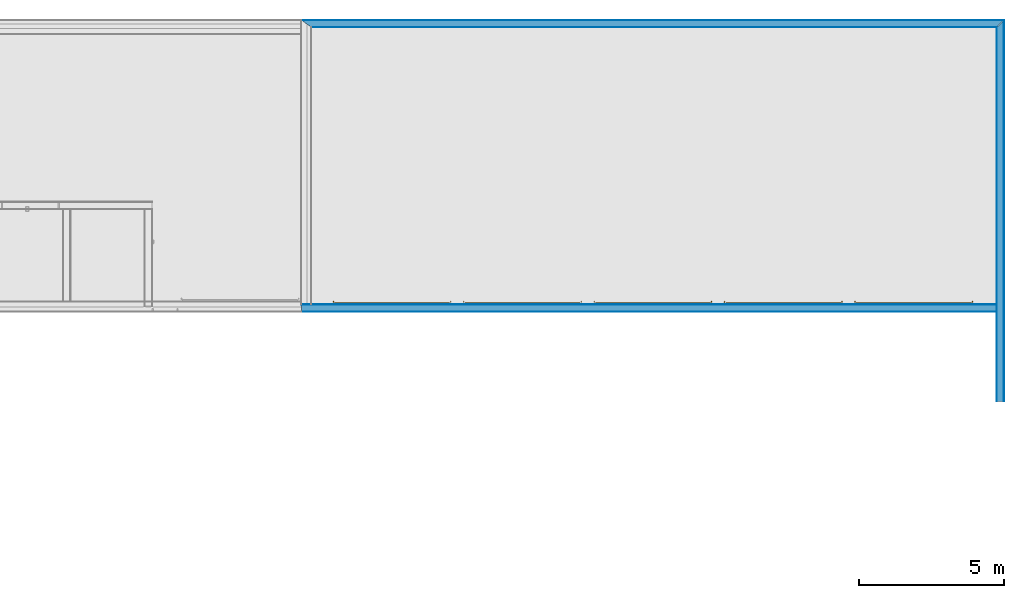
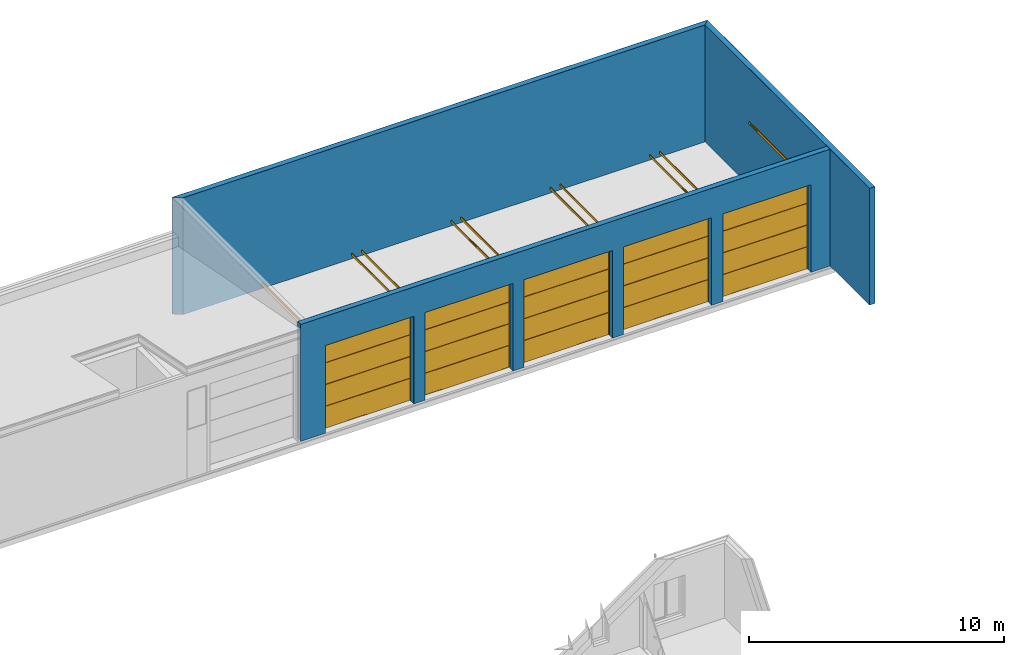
# One storey, part 26 of 62: 9 building element parts, 5 doors, 5 openings, 3 elements without a shape of their own.
"""IFC2X3 building model written with IfcOpenShell, lengths in millimetres."""

from ifc_helpers import new_model, entity, si_unit, converted_unit, derived_unit, money_unit, direction, frame, origin_with_axes, origin_2d_with_axis, place, context, subcontext, project, spatial, polyline, rectangle, outline, extrude, clip, bounded_halfspace, faceted_brep, source, transform, mapped, material, type_object, element, fill, aggregate, save


model = new_model("IFC2X3")

# Units and contexts
model_context = context("Model", 3, precision=0.01, world=origin_with_axes(), true_north=direction((0.0, 1.0)))
body_context = subcontext(model_context, "Body", "Model", "MODEL_VIEW")
ifc_project = project(units=[si_unit("LENGTHUNIT", "METRE", prefix="MILLI"), si_unit("AREAUNIT", "SQUARE_METRE"), si_unit("VOLUMEUNIT", "CUBIC_METRE"), converted_unit("PLANEANGLEUNIT", "DEGREE", entity("IfcPlaneAngleMeasure", 0.0174532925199), si_unit("PLANEANGLEUNIT", "RADIAN"), dimensions=[0, 0, 0, 0, 0, 0, 0]), si_unit("SOLIDANGLEUNIT", "STERADIAN"), money_unit("EUR"), converted_unit("TIMEUNIT", "Year", entity("IfcTimeMeasure", 31556926.0), si_unit("TIMEUNIT", "SECOND"), dimensions=[0, 0, 1, 0, 0, 0, 0]), si_unit("MASSUNIT", "GRAM", prefix="KILO"), si_unit("THERMODYNAMICTEMPERATUREUNIT", "DEGREE_CELSIUS"), si_unit("LUMINOUSINTENSITYUNIT", "LUMEN"), si_unit("ENERGYUNIT", "JOULE", prefix="MEGA"), derived_unit("THERMALCONDUCTANCEUNIT", [(si_unit("POWERUNIT", "WATT"), 1), (si_unit("LENGTHUNIT", "METRE"), -1), (si_unit("THERMODYNAMICTEMPERATUREUNIT", "KELVIN"), -1)]), derived_unit("SPECIFICHEATCAPACITYUNIT", [(si_unit("ENERGYUNIT", "JOULE"), 1), (si_unit("MASSUNIT", "GRAM", prefix="KILO"), -1), (si_unit("THERMODYNAMICTEMPERATUREUNIT", "KELVIN"), -1)]), derived_unit("MASSDENSITYUNIT", [(si_unit("MASSUNIT", "GRAM", prefix="KILO"), 1), (si_unit("VOLUMEUNIT", "CUBIC_METRE"), -1)])], contexts=[model_context])

# Site, building, storey
site_placement = place(None, origin_with_axes())
site = spatial("IfcSite", under=ifc_project, at=site_placement, Name="KIRDE 14, ELVA", CompositionType="ELEMENT")
building_placement = place(site_placement, origin_with_axes())
building = spatial("IfcBuilding", under=site, at=building_placement, Name="PPA ja Päästeameti ühishoone", CompositionType="ELEMENT")
storey_placement = place(building_placement, origin_with_axes())
storey = spatial("IfcBuildingStorey", under=building, at=storey_placement, Name="Esimene korrus", CompositionType="ELEMENT", Elevation=0.0)

# Door
door_style = type_object("IfcDoorStyle", Name="Overhead Garage Door 24", ConstructionType="NOTDEFINED", OperationType="ROLLINGUP", ParameterTakesPrecedence=False, Sizeable=False)
shared_shape = source(origin_with_axes(), body_context, "Body", "Brep", [
    faceted_brep([(1990.0, 250.0, 4250.0), (-1990.0, 250.0, 4250.0), (-1990.0, 250.0, 4200.0), (1990.0, 250.0, 4200.0), (1990.0, 285.0, 4250.0), (-1990.0, 285.0, 4250.0), (-1990.0, 285.0, 4200.0), (1990.0, 285.0, 4200.0)], [[[0, 1, 2, 3]], [[4, 5, 1, 0]], [[1, 5, 6, 2]], [[3, 2, 6, 7]], [[0, 3, 7, 4]], [[7, 6, 5, 4]]]),
    faceted_brep([(-2040.0, 350.0, 0.0), (-2040.0, 350.0, 4250.0), (-2038.4125, 350.0, 4250.0), (-2038.4125, 350.0, 0.0), (-2040.0, 250.0, 0.0), (-2040.0, 250.0, 4250.0), (-1990.0, 250.0, 4250.0), (-1990.0, 285.0, 4250.0), (-1991.5875, 285.0, 4250.0), (-1991.5875, 251.5875, 4250.0), (-2038.4125, 251.5875, 4250.0), (-2038.4125, 251.5875, 0.0), (-1991.5875, 251.5875, 0.0), (-1991.5875, 285.0, 0.0), (-1990.0, 285.0, 0.0), (-1990.0, 250.0, 0.0)], [[[0, 1, 2, 3]], [[4, 5, 1, 0]], [[1, 5, 6, 7, 8, 9, 10, 2]], [[3, 2, 10, 11]], [[0, 3, 11, 12, 13, 14, 15, 4]], [[15, 6, 5, 4]], [[14, 7, 6, 15]], [[13, 8, 7, 14]], [[12, 9, 8, 13]], [[11, 10, 9, 12]]]),
    faceted_brep([(2038.4125, 370.0, 0.0), (2038.4125, 370.0, 3826.85768941), (2038.4125, 371.807210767, 3861.34132507), (2038.4125, 376.716802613, 3892.33926803), (2038.4125, 384.839666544, 3922.65420892), (2038.4125, 396.086806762, 3951.95401091), (2038.4125, 410.334997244, 3979.91765924), (2038.4125, 427.428131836, 4006.23877832), (2038.4125, 447.178934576, 4030.62898846), (2038.4125, 469.371011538, 4052.82106542), (2038.4125, 493.761221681, 4072.57186816), (2038.4125, 520.08234076, 4089.66500276), (2038.4125, 548.045989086, 4103.91319324), (2038.4125, 577.345791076, 4115.16033346), (2038.4125, 607.660731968, 4123.28319739), (2038.4125, 638.658674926, 4128.19278923), (2038.4125, 673.142310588, 4130.0), (2038.4125, 4910.0, 4130.0), (2038.4125, 4910.0, 4187.0), (2038.4125, 671.649713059, 4187.0), (2038.4125, 632.692375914, 4184.95833247), (2038.4125, 595.793501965, 4179.11412497), (2038.4125, 559.707649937, 4169.44495007), (2038.4125, 524.830183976, 4156.05674525), (2038.4125, 491.543228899, 4139.0961945), (2038.4125, 460.21148355, 4118.74912116), (2038.4125, 431.178225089, 4095.23845203), (2038.4125, 404.76154797, 4068.82177491), (2038.4125, 381.250878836, 4039.78851645), (2038.4125, 360.903805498, 4008.4567711), (2038.4125, 343.94325475, 3975.16981602), (2038.4125, 330.555049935, 3940.29235006), (2038.4125, 320.885875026, 3904.20649804), (2038.4125, 315.041667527, 3867.30762409), (2038.4125, 313.0, 3828.35028694), (2038.4125, 313.0, 0.0), (2011.4125, 370.0, 0.0), (2011.4125, 370.0, 3826.85768941), (2011.4125, 371.807210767, 3861.34132507), (2011.4125, 376.716802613, 3892.33926803), (2011.4125, 384.839666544, 3922.65420892), (2011.4125, 396.086806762, 3951.95401091), (2011.4125, 410.334997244, 3979.91765924), (2011.4125, 427.428131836, 4006.23877832), (2011.4125, 447.178934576, 4030.62898846), (2011.4125, 469.371011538, 4052.82106542), (2011.4125, 493.761221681, 4072.57186816), (2011.4125, 520.08234076, 4089.66500276), (2011.4125, 548.045989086, 4103.91319324), (2011.4125, 577.345791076, 4115.16033346), (2011.4125, 607.660731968, 4123.28319739), (2011.4125, 638.658674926, 4128.19278923), (2011.4125, 673.142310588, 4130.0), (2011.4125, 4910.0, 4130.0), (2011.4125, 4910.0, 4187.0), (2011.4125, 671.649713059, 4187.0), (2011.4125, 632.692375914, 4184.95833247), (2011.4125, 595.793501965, 4179.11412497), (2011.4125, 559.707649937, 4169.44495007), (2011.4125, 524.830183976, 4156.05674525), (2011.4125, 491.543228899, 4139.0961945), (2011.4125, 460.21148355, 4118.74912116), (2011.4125, 431.178225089, 4095.23845203), (2011.4125, 404.76154797, 4068.82177491), (2011.4125, 381.250878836, 4039.78851645), (2011.4125, 360.903805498, 4008.4567711), (2011.4125, 343.94325475, 3975.16981602), (2011.4125, 330.555049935, 3940.29235006), (2011.4125, 320.885875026, 3904.20649804), (2011.4125, 315.041667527, 3867.30762409), (2011.4125, 313.0, 3828.35028694), (2011.4125, 313.0, 0.0)], [[[0, 1, 2, 3, 4, 5, 6, 7, 8, 9, 10, 11, 12, 13, 14, 15, 16, 17, 18, 19, 20, 21, 22, 23, 24, 25, 26, 27, 28, 29, 30, 31, 32, 33, 34, 35]], [[36, 37, 1, 0]], [[37, 38, 2, 1]], [[38, 39, 3, 2]], [[39, 40, 4, 3]], [[40, 41, 5, 4]], [[41, 42, 6, 5]], [[42, 43, 7, 6]], [[43, 44, 8, 7]], [[44, 45, 9, 8]], [[45, 46, 10, 9]], [[46, 47, 11, 10]], [[47, 48, 12, 11]], [[48, 49, 13, 12]], [[49, 50, 14, 13]], [[50, 51, 15, 14]], [[51, 52, 16, 15]], [[52, 53, 17, 16]], [[17, 53, 54, 18]], [[19, 18, 54, 55]], [[20, 19, 55, 56]], [[21, 20, 56, 57]], [[22, 21, 57, 58]], [[23, 22, 58, 59]], [[24, 23, 59, 60]], [[25, 24, 60, 61]], [[26, 25, 61, 62]], [[27, 26, 62, 63]], [[28, 27, 63, 64]], [[29, 28, 64, 65]], [[30, 29, 65, 66]], [[31, 30, 66, 67]], [[32, 31, 67, 68]], [[33, 32, 68, 69]], [[34, 33, 69, 70]], [[35, 34, 70, 71]], [[0, 35, 71, 36]], [[71, 70, 69, 68, 67, 66, 65, 64, 63, 62, 61, 60, 59, 58, 57, 56, 55, 54, 53, 52, 51, 50, 49, 48, 47, 46, 45, 44, 43, 42, 41, 40, 39, 38, 37, 36]]]),
    faceted_brep([(-2040.0, 4910.0, 4244.0), (-2040.0, 313.0, 4244.0), (-2013.0, 313.0, 4244.0), (-2013.0, 4910.0, 4244.0), (-2040.0, 4910.0, 4187.0), (-2040.0, 313.0, 4187.0), (-2013.0, 313.0, 4187.0), (-2013.0, 4910.0, 4187.0)], [[[0, 1, 2, 3]], [[4, 5, 1, 0]], [[1, 5, 6, 2]], [[3, 2, 6, 7]], [[0, 3, 7, 4]], [[7, 6, 5, 4]]]),
    faceted_brep([(2040.0, 350.0, 0.0), (2038.4125, 350.0, 0.0), (2038.4125, 350.0, 4250.0), (2040.0, 350.0, 4250.0), (2040.0, 250.0, 0.0), (1990.0, 250.0, 0.0), (1990.0, 285.0, 0.0), (1991.5875, 285.0, 0.0), (1991.5875, 251.5875, 0.0), (2038.4125, 251.5875, 0.0), (2038.4125, 251.5875, 4250.0), (1991.5875, 251.5875, 4250.0), (1991.5875, 285.0, 4250.0), (1990.0, 285.0, 4250.0), (1990.0, 250.0, 4250.0), (2040.0, 250.0, 4250.0)], [[[0, 1, 2, 3]], [[0, 4, 5, 6, 7, 8, 9, 1]], [[1, 9, 10, 2]], [[3, 2, 10, 11, 12, 13, 14, 15]], [[4, 0, 3, 15]], [[5, 4, 15, 14]], [[6, 5, 14, 13]], [[7, 6, 13, 12]], [[8, 7, 12, 11]], [[9, 8, 11, 10]]]),
    faceted_brep([(-2038.4125, 370.0, 0.0), (-2038.4125, 313.0, 0.0), (-2038.4125, 313.0, 3828.35028694), (-2038.4125, 315.041667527, 3867.30762409), (-2038.4125, 320.885875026, 3904.20649804), (-2038.4125, 330.555049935, 3940.29235006), (-2038.4125, 343.94325475, 3975.16981602), (-2038.4125, 360.903805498, 4008.4567711), (-2038.4125, 381.250878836, 4039.78851645), (-2038.4125, 404.76154797, 4068.82177491), (-2038.4125, 431.178225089, 4095.23845203), (-2038.4125, 460.21148355, 4118.74912116), (-2038.4125, 491.543228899, 4139.0961945), (-2038.4125, 524.830183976, 4156.05674525), (-2038.4125, 559.707649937, 4169.44495007), (-2038.4125, 595.793501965, 4179.11412497), (-2038.4125, 632.692375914, 4184.95833247), (-2038.4125, 671.649713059, 4187.0), (-2038.4125, 4910.0, 4187.0), (-2038.4125, 4910.0, 4130.0), (-2038.4125, 673.142310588, 4130.0), (-2038.4125, 638.658674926, 4128.19278923), (-2038.4125, 607.660731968, 4123.28319739), (-2038.4125, 577.345791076, 4115.16033346), (-2038.4125, 548.045989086, 4103.91319324), (-2038.4125, 520.08234076, 4089.66500276), (-2038.4125, 493.761221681, 4072.57186816), (-2038.4125, 469.371011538, 4052.82106542), (-2038.4125, 447.178934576, 4030.62898846), (-2038.4125, 427.428131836, 4006.23877832), (-2038.4125, 410.334997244, 3979.91765924), (-2038.4125, 396.086806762, 3951.95401091), (-2038.4125, 384.839666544, 3922.65420892), (-2038.4125, 376.716802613, 3892.33926803), (-2038.4125, 371.807210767, 3861.34132507), (-2038.4125, 370.0, 3826.85768941), (-2011.4125, 370.0, 0.0), (-2011.4125, 313.0, 0.0), (-2011.4125, 313.0, 3828.35028694), (-2011.4125, 315.041667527, 3867.30762409), (-2011.4125, 320.885875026, 3904.20649804), (-2011.4125, 330.555049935, 3940.29235006), (-2011.4125, 343.94325475, 3975.16981602), (-2011.4125, 360.903805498, 4008.4567711), (-2011.4125, 381.250878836, 4039.78851645), (-2011.4125, 404.76154797, 4068.82177491), (-2011.4125, 431.178225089, 4095.23845203), (-2011.4125, 460.21148355, 4118.74912116), (-2011.4125, 491.543228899, 4139.0961945), (-2011.4125, 524.830183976, 4156.05674525), (-2011.4125, 559.707649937, 4169.44495007), (-2011.4125, 595.793501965, 4179.11412497), (-2011.4125, 632.692375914, 4184.95833247), (-2011.4125, 671.649713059, 4187.0), (-2011.4125, 4910.0, 4187.0), (-2011.4125, 4910.0, 4130.0), (-2011.4125, 673.142310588, 4130.0), (-2011.4125, 638.658674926, 4128.19278923), (-2011.4125, 607.660731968, 4123.28319739), (-2011.4125, 577.345791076, 4115.16033346), (-2011.4125, 548.045989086, 4103.91319324), (-2011.4125, 520.08234076, 4089.66500276), (-2011.4125, 493.761221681, 4072.57186816), (-2011.4125, 469.371011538, 4052.82106542), (-2011.4125, 447.178934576, 4030.62898846), (-2011.4125, 427.428131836, 4006.23877832), (-2011.4125, 410.334997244, 3979.91765924), (-2011.4125, 396.086806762, 3951.95401091), (-2011.4125, 384.839666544, 3922.65420892), (-2011.4125, 376.716802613, 3892.33926803), (-2011.4125, 371.807210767, 3861.34132507), (-2011.4125, 370.0, 3826.85768941)], [[[0, 1, 2, 3, 4, 5, 6, 7, 8, 9, 10, 11, 12, 13, 14, 15, 16, 17, 18, 19, 20, 21, 22, 23, 24, 25, 26, 27, 28, 29, 30, 31, 32, 33, 34, 35]], [[0, 36, 37, 1]], [[1, 37, 38, 2]], [[2, 38, 39, 3]], [[3, 39, 40, 4]], [[4, 40, 41, 5]], [[5, 41, 42, 6]], [[6, 42, 43, 7]], [[7, 43, 44, 8]], [[8, 44, 45, 9]], [[9, 45, 46, 10]], [[10, 46, 47, 11]], [[11, 47, 48, 12]], [[12, 48, 49, 13]], [[13, 49, 50, 14]], [[14, 50, 51, 15]], [[15, 51, 52, 16]], [[16, 52, 53, 17]], [[17, 53, 54, 18]], [[19, 18, 54, 55]], [[56, 20, 19, 55]], [[57, 21, 20, 56]], [[58, 22, 21, 57]], [[59, 23, 22, 58]], [[60, 24, 23, 59]], [[61, 25, 24, 60]], [[62, 26, 25, 61]], [[63, 27, 26, 62]], [[64, 28, 27, 63]], [[65, 29, 28, 64]], [[66, 30, 29, 65]], [[67, 31, 30, 66]], [[68, 32, 31, 67]], [[69, 33, 32, 68]], [[70, 34, 33, 69]], [[71, 35, 34, 70]], [[36, 0, 35, 71]], [[37, 36, 71, 70, 69, 68, 67, 66, 65, 64, 63, 62, 61, 60, 59, 58, 57, 56, 55, 54, 53, 52, 51, 50, 49, 48, 47, 46, 45, 44, 43, 42, 41, 40, 39, 38]]]),
    faceted_brep([(2040.0, 4910.0, 4244.0), (2013.0, 4910.0, 4244.0), (2013.0, 313.0, 4244.0), (2040.0, 313.0, 4244.0), (2040.0, 4910.0, 4187.0), (2013.0, 4910.0, 4187.0), (2013.0, 313.0, 4187.0), (2040.0, 313.0, 4187.0)], [[[0, 1, 2, 3]], [[0, 4, 5, 1]], [[1, 5, 6, 2]], [[3, 2, 6, 7]], [[4, 0, 3, 7]], [[5, 4, 7, 6]]]),
    faceted_brep([(-1985.0, 325.0, 0.0), (1985.0, 325.0, 0.0), (1985.0, 295.0, 0.0), (-1985.0, 295.0, 0.0), (-1985.0, 325.0, 22.5), (1985.0, 325.0, 22.5), (1985.0, 295.0, 22.5), (-1985.0, 295.0, 22.5)], [[[0, 1, 2, 3]], [[0, 4, 5, 1]], [[1, 5, 6, 2]], [[3, 2, 6, 7]], [[4, 0, 3, 7]], [[5, 4, 7, 6]]]),
    faceted_brep([(-1985.0, 325.0, 22.5), (-1985.0, 325.0, 1063.625), (1985.0, 325.0, 1063.625), (1985.0, 325.0, 22.5), (-1985.0, 295.0, 22.5), (-1985.0, 285.0, 32.5), (-1985.0, 285.0, 1053.625), (-1985.0, 295.0, 1063.625), (1985.0, 295.0, 1063.625), (1985.0, 285.0, 1053.625), (1985.0, 285.0, 32.5), (1985.0, 295.0, 22.5)], [[[0, 1, 2, 3]], [[0, 4, 5, 6, 7, 1]], [[1, 7, 8, 2]], [[3, 2, 8, 9, 10, 11]], [[4, 0, 3, 11]], [[5, 4, 11, 10]], [[6, 5, 10, 9]], [[7, 6, 9, 8]]]),
    faceted_brep([(-1985.0, 325.0, 1063.625), (-1985.0, 325.0, 2104.75), (1985.0, 325.0, 2104.75), (1985.0, 325.0, 1063.625), (-1985.0, 295.0, 1063.625), (-1985.0, 285.0, 1073.625), (-1985.0, 285.0, 2094.75), (-1985.0, 295.0, 2104.75), (1985.0, 295.0, 2104.75), (1985.0, 285.0, 2094.75), (1985.0, 285.0, 1073.625), (1985.0, 295.0, 1063.625)], [[[0, 1, 2, 3]], [[0, 4, 5, 6, 7, 1]], [[1, 7, 8, 2]], [[3, 2, 8, 9, 10, 11]], [[4, 0, 3, 11]], [[5, 4, 11, 10]], [[6, 5, 10, 9]], [[7, 6, 9, 8]]]),
    faceted_brep([(-1985.0, 325.0, 2104.75), (-1985.0, 325.0, 3145.875), (1985.0, 325.0, 3145.875), (1985.0, 325.0, 2104.75), (-1985.0, 295.0, 2104.75), (-1985.0, 285.0, 2114.75), (-1985.0, 285.0, 3135.875), (-1985.0, 295.0, 3145.875), (1985.0, 295.0, 3145.875), (1985.0, 285.0, 3135.875), (1985.0, 285.0, 2114.75), (1985.0, 295.0, 2104.75)], [[[0, 1, 2, 3]], [[0, 4, 5, 6, 7, 1]], [[1, 7, 8, 2]], [[3, 2, 8, 9, 10, 11]], [[4, 0, 3, 11]], [[5, 4, 11, 10]], [[6, 5, 10, 9]], [[7, 6, 9, 8]]]),
    faceted_brep([(-1985.0, 325.0, 3145.875), (-1985.0, 325.0, 4187.0), (1985.0, 325.0, 4187.0), (1985.0, 325.0, 3145.875), (-1985.0, 295.0, 3145.875), (-1985.0, 285.0, 3155.875), (-1985.0, 285.0, 4177.0), (-1985.0, 295.0, 4187.0), (1985.0, 295.0, 4187.0), (1985.0, 285.0, 4177.0), (1985.0, 285.0, 3155.875), (1985.0, 295.0, 3145.875)], [[[0, 1, 2, 3]], [[0, 4, 5, 6, 7, 1]], [[1, 7, 8, 2]], [[3, 2, 8, 9, 10, 11]], [[4, 0, 3, 11]], [[5, 4, 11, 10]], [[6, 5, 10, 9]], [[7, 6, 9, 8]]]),
])
wall_2_placement = place(storey_placement, frame((31677.6217772, 39784.5478473, 0.0), z_axis=(0.0, 0.0, 1.0), x_axis=(1.0, 0.0, 0.0)))
opening_1_placement = place(wall_2_placement, frame((3128.09675777, 0.0, 0.0), z_axis=(0.0, 0.0, 1.0), x_axis=(1.0, 0.0, 0.0)))
door_1_placement = place(opening_1_placement, frame((-2000.0, 0.0, 0.0), z_axis=(0.0, 0.0, 1.0), x_axis=(1.0, 0.0, 0.0)))
door_1 = element("IfcDoor", 1, at=door_1_placement, inside=storey, type_object=door_style, Name="GUA-02", ObjectType="DOOR", OverallHeight=4200.0, OverallWidth=4000.0, context=body_context, shape_type="MappedRepresentation", body=[
    mapped(shared_shape, transform((2000.0, -250.0, 0.0))),
])

opening_2_placement = place(wall_2_placement, frame((12128.0967578, 0.0, 0.0), z_axis=(0.0, 0.0, 1.0), x_axis=(1.0, 0.0, 0.0)))
door_2_placement = place(opening_2_placement, frame((-2000.0, 0.0, 0.0), z_axis=(0.0, 0.0, 1.0), x_axis=(1.0, 0.0, 0.0)))
door_2 = element("IfcDoor", 2, at=door_2_placement, inside=storey, type_object=door_style, Name="GUA-02", ObjectType="DOOR", OverallHeight=4200.0, OverallWidth=4000.0, context=body_context, shape_type="MappedRepresentation", body=[
    mapped(shared_shape, transform((2000.0, -250.0, 0.0))),
])

opening_3_placement = place(wall_2_placement, frame((7628.09675777, 0.0, 0.0), z_axis=(0.0, 0.0, 1.0), x_axis=(1.0, 0.0, 0.0)))
door_3_placement = place(opening_3_placement, frame((-2000.0, 0.0, 0.0), z_axis=(0.0, 0.0, 1.0), x_axis=(1.0, 0.0, 0.0)))
door_3 = element("IfcDoor", 3, at=door_3_placement, inside=storey, type_object=door_style, Name="GUA-02", ObjectType="DOOR", OverallHeight=4200.0, OverallWidth=4000.0, context=body_context, shape_type="MappedRepresentation", body=[
    mapped(shared_shape, transform((2000.0, -250.0, 0.0))),
])

opening_4_placement = place(wall_2_placement, frame((16628.0967578, 0.0, 0.0), z_axis=(0.0, 0.0, 1.0), x_axis=(1.0, 0.0, 0.0)))
door_4_placement = place(opening_4_placement, frame((-2000.0, 0.0, 0.0), z_axis=(0.0, 0.0, 1.0), x_axis=(1.0, 0.0, 0.0)))
door_4 = element("IfcDoor", 4, at=door_4_placement, inside=storey, type_object=door_style, Name="GUA-02", ObjectType="DOOR", OverallHeight=4200.0, OverallWidth=4000.0, context=body_context, shape_type="MappedRepresentation", body=[
    mapped(shared_shape, transform((2000.0, -250.0, 0.0))),
])

opening_5_placement = place(wall_2_placement, frame((21128.0967578, 0.0, 0.0), z_axis=(0.0, 0.0, 1.0), x_axis=(1.0, 0.0, 0.0)))
door_5_placement = place(opening_5_placement, frame((-2000.0, 0.0, 0.0), z_axis=(0.0, 0.0, 1.0), x_axis=(1.0, 0.0, 0.0)))
door_5 = element("IfcDoor", 5, at=door_5_placement, inside=storey, type_object=door_style, Name="GUA-02", ObjectType="DOOR", OverallHeight=4200.0, OverallWidth=4000.0, context=body_context, shape_type="MappedRepresentation", body=[
    mapped(shared_shape, transform((2000.0, -250.0, 0.0))),
])

# Wall, building element parts
wall_type = type_object("IfcWallType", Name="A-VS02 250", PredefinedType="NOTDEFINED")
wall_1_placement = place(storey_placement, frame((55669.2615457, 49348.5478995, 0.0), z_axis=(0.0, 0.0, 1.0), x_axis=(0.0, -1.0, 0.0)))
wall_1 = element("IfcWall", 6, at=wall_1_placement, inside=storey, type_object=wall_type, Name="VS-06")
ifc_material_1 = material(Name="Krohv")
building_element_part_1_placement = place(wall_1_placement, origin_with_axes())
building_element_part_1 = element("IfcBuildingElementPart", 7, at=building_element_part_1_placement, material=ifc_material_1, Name="Krohv", context=body_context, shape_type="SweptSolid", body=[
    extrude(outline(polyline([(0.0, 0.0), (12905.0, 0.0), (12905.0, 5.0), (-5.00000000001, 5.0), (0.0, 0.0)])), origin_with_axes(), (0.0, 0.0, 1.0), 5600.0),
])
ifc_material_2 = material(Name="COLUMBIA KIVI (BETONEERITUD)")
building_element_part_2_placement = place(wall_1_placement, origin_with_axes())
building_element_part_2 = element("IfcBuildingElementPart", 8, at=building_element_part_2_placement, material=ifc_material_2, Name="COLUMBIA KIVI (BETONEERITUD)", context=body_context, shape_type="SweptSolid", body=[
    extrude(outline(polyline([(-5.00000000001, 5.0), (12905.0, 5.0), (12905.0, 245.0), (-245.0, 245.0), (-5.00000000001, 5.0)])), origin_with_axes(), (0.0, 0.0, 1.0), 5600.0),
])
building_element_part_3_placement = place(wall_1_placement, origin_with_axes())
building_element_part_3 = element("IfcBuildingElementPart", 9, at=building_element_part_3_placement, material=ifc_material_1, Name="Krohv", context=body_context, shape_type="SweptSolid", body=[
    extrude(outline(polyline([(-245.0, 245.0), (12905.0, 245.0), (12905.0, 250.0), (-250.0, 250.0), (-245.0, 245.0)])), origin_with_axes(), (0.0, 0.0, 1.0), 5600.0),
])
aggregate(wall_1, [building_element_part_1, building_element_part_2, building_element_part_3])

# Wall, opening
wall_2 = element("IfcWall", 10, at=wall_2_placement, inside=storey, type_object=wall_type, Name="VS-04")
opening_1 = element("IfcOpeningElement", 11, at=opening_1_placement, cuts=wall_2, Name="GUA-02", context=body_context, shape_type="SweptSolid", body=[
    extrude(rectangle(XDim=4000.0, YDim=4200.0, at=origin_2d_with_axis()), frame((0.0, 250.0, 2100.0), z_axis=(0.0, -1.0, 0.0), x_axis=(1.0, 0.0, 0.0)), (0.0, 0.0, 1.0), 750.0),
])

fill(opening_1, door_1)

# Opening
opening_2 = element("IfcOpeningElement", 12, at=opening_2_placement, cuts=wall_2, Name="GUA-02", context=body_context, shape_type="SweptSolid", body=[
    extrude(rectangle(XDim=4000.0, YDim=4200.0, at=origin_2d_with_axis()), frame((0.0, 250.0, 2100.0), z_axis=(0.0, -1.0, 0.0), x_axis=(1.0, 0.0, 0.0)), (0.0, 0.0, 1.0), 750.0),
])

fill(opening_2, door_2)

opening_3 = element("IfcOpeningElement", 13, at=opening_3_placement, cuts=wall_2, Name="GUA-02", context=body_context, shape_type="SweptSolid", body=[
    extrude(rectangle(XDim=4000.0, YDim=4200.0, at=origin_2d_with_axis()), frame((0.0, 250.0, 2100.0), z_axis=(0.0, -1.0, 0.0), x_axis=(1.0, 0.0, 0.0)), (0.0, 0.0, 1.0), 750.0),
])

fill(opening_3, door_3)

opening_4 = element("IfcOpeningElement", 14, at=opening_4_placement, cuts=wall_2, Name="GUA-02", context=body_context, shape_type="SweptSolid", body=[
    extrude(rectangle(XDim=4000.0, YDim=4200.0, at=origin_2d_with_axis()), frame((0.0, 250.0, 2100.0), z_axis=(0.0, -1.0, 0.0), x_axis=(1.0, 0.0, 0.0)), (0.0, 0.0, 1.0), 750.0),
])

fill(opening_4, door_4)

opening_5 = element("IfcOpeningElement", 15, at=opening_5_placement, cuts=wall_2, Name="GUA-02", context=body_context, shape_type="SweptSolid", body=[
    extrude(rectangle(XDim=4000.0, YDim=4200.0, at=origin_2d_with_axis()), frame((0.0, 250.0, 2100.0), z_axis=(0.0, -1.0, 0.0), x_axis=(1.0, 0.0, 0.0)), (0.0, 0.0, 1.0), 750.0),
])

fill(opening_5, door_5)

# Building element part
building_element_part_4_placement = place(wall_2_placement, origin_with_axes())
building_element_part_4 = element("IfcBuildingElementPart", 16, at=building_element_part_4_placement, material=ifc_material_1, Name="Krohv", context=body_context, shape_type="Clipping", body=[
    clip(clip(extrude(outline(polyline([(0.0, -5.0), (23991.6397685, -5.0), (23991.6397685, 0.0), (0.0, 0.0), (0.0, -5.0)])), origin_with_axes(), (0.0, 0.0, 1.0), 5600.0), bounded_halfspace(frame((-3.21189756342e-07, 914.07045428, 4710.9318918), z_axis=(0.0, -0.190479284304, -0.981691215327), x_axis=(0.0, 0.981691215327, -0.190479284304)), True, origin_with_axes(), polyline([(-17407.6586547, -260.0), (0.0, -260.0), (0.0, 10.0), (-17407.6586547, 10.0), (-17407.6586547, -260.0)]))), bounded_halfspace(frame((1.09234689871e-09, 914.07045459, 4710.9318934), z_axis=(0.0, -0.190479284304, -0.981691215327), x_axis=(0.0, 0.981691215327, -0.190479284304)), True, origin_with_axes(), polyline([(-14293.9667619, -260.0), (-1.03600236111e-07, -260.0), (-1.32274379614e-07, 10.0), (-14293.9667619, 10.0), (-14293.9667619, -260.0)]))),
])

building_element_part_5_placement = place(wall_2_placement, origin_with_axes())
building_element_part_5 = element("IfcBuildingElementPart", 17, at=building_element_part_5_placement, material=ifc_material_2, Name="COLUMBIA KIVI (BETONEERITUD)", context=body_context, shape_type="Clipping", body=[
    clip(clip(extrude(outline(polyline([(0.0, -245.0), (23991.6397685, -245.0), (23991.6397685, -5.0), (0.0, -5.0), (0.0, -245.0)])), origin_with_axes(), (0.0, 0.0, 1.0), 5600.0), bounded_halfspace(frame((-3.21189756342e-07, 914.07045428, 4710.9318918), z_axis=(0.0, -0.190479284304, -0.981691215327), x_axis=(0.0, 0.981691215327, -0.190479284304)), True, origin_with_axes(), polyline([(-17407.6586547, -260.0), (0.0, -260.0), (0.0, 10.0), (-17407.6586547, 10.0), (-17407.6586547, -260.0)]))), bounded_halfspace(frame((1.09234689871e-09, 914.07045459, 4710.9318934), z_axis=(0.0, -0.190479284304, -0.981691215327), x_axis=(0.0, 0.981691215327, -0.190479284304)), True, origin_with_axes(), polyline([(-14293.9667619, -260.0), (-1.03600236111e-07, -260.0), (-1.32274379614e-07, 10.0), (-14293.9667619, 10.0), (-14293.9667619, -260.0)]))),
])

building_element_part_6_placement = place(wall_2_placement, origin_with_axes())
building_element_part_6 = element("IfcBuildingElementPart", 18, at=building_element_part_6_placement, material=ifc_material_1, Name="Krohv", context=body_context, shape_type="Clipping", body=[
    clip(clip(extrude(outline(polyline([(0.0, -250.0), (23991.6397685, -250.0), (23991.6397685, -245.0), (0.0, -245.0), (0.0, -250.0)])), origin_with_axes(), (0.0, 0.0, 1.0), 5600.0), bounded_halfspace(frame((-3.21189756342e-07, 914.07045428, 4710.9318918), z_axis=(0.0, -0.190479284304, -0.981691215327), x_axis=(0.0, 0.981691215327, -0.190479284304)), True, origin_with_axes(), polyline([(-17407.6586547, -260.0), (0.0, -260.0), (0.0, 10.0), (-17407.6586547, 10.0), (-17407.6586547, -260.0)]))), bounded_halfspace(frame((1.09234689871e-09, 914.07045459, 4710.9318934), z_axis=(0.0, -0.190479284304, -0.981691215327), x_axis=(0.0, 0.981691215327, -0.190479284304)), True, origin_with_axes(), polyline([(-14293.9667619, -260.0), (-1.03600236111e-07, -260.0), (-1.32274379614e-07, 10.0), (-14293.9667619, 10.0), (-14293.9667619, -260.0)]))),
])

aggregate(wall_2, [building_element_part_4, building_element_part_5, building_element_part_6])

# Wall, building element parts
wall_3_placement = place(storey_placement, frame((55669.2615439, 49348.5478995, 0.0), z_axis=(0.0, 0.0, 1.0), x_axis=(-1.0, 0.0, 0.0)))
wall_3 = element("IfcWall", 19, at=wall_3_placement, inside=storey, type_object=wall_type, Name="A-VS02")
building_element_part_7_placement = place(wall_3_placement, origin_with_axes())
building_element_part_7 = element("IfcBuildingElementPart", 20, at=building_element_part_7_placement, material=ifc_material_1, Name="Krohv", context=body_context, shape_type="SweptSolid", body=[
    extrude(outline(polyline([(-5.00000176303, -5.0), (23658.6397665, -5.0), (23651.6397665, 0.0), (-1.76302705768e-06, 0.0), (-5.00000176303, -5.0)])), origin_with_axes(), (0.0, 0.0, 1.0), 5600.0),
])
building_element_part_8_placement = place(wall_3_placement, origin_with_axes())
building_element_part_8 = element("IfcBuildingElementPart", 21, at=building_element_part_8_placement, material=ifc_material_2, Name="COLUMBIA KIVI (BETONEERITUD)", context=body_context, shape_type="SweptSolid", body=[
    extrude(outline(polyline([(-245.000001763, -245.0), (23994.6397665, -245.0), (23658.6397665, -5.0), (-5.00000176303, -5.0), (-245.000001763, -245.0)])), origin_with_axes(), (0.0, 0.0, 1.0), 5600.0),
])
building_element_part_9_placement = place(wall_3_placement, origin_with_axes())
building_element_part_9 = element("IfcBuildingElementPart", 22, at=building_element_part_9_placement, material=ifc_material_1, Name="Krohv", context=body_context, shape_type="SweptSolid", body=[
    extrude(outline(polyline([(-250.000001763, -250.0), (24001.6397665, -250.0), (23994.6397665, -245.0), (-245.000001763, -245.0), (-250.000001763, -250.0)])), origin_with_axes(), (0.0, 0.0, 1.0), 5600.0),
])
aggregate(wall_3, [building_element_part_7, building_element_part_8, building_element_part_9])

save(model, "model.ifc")
